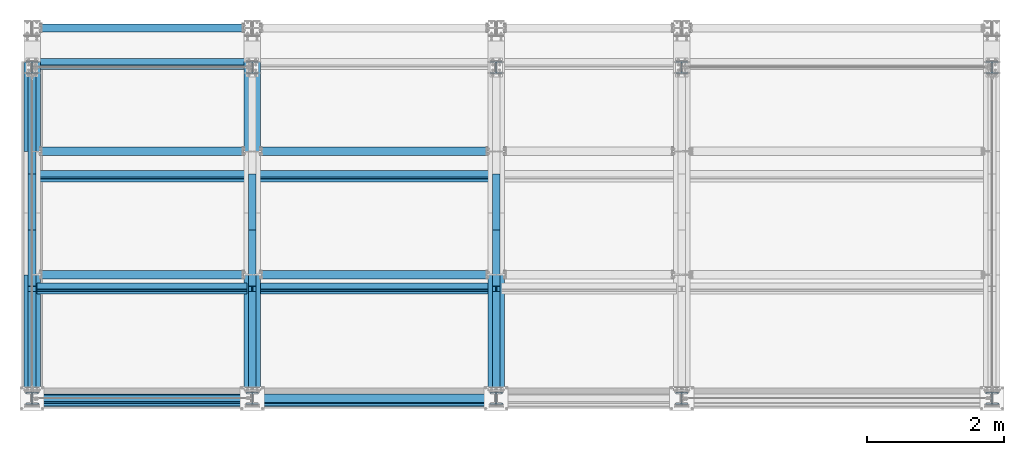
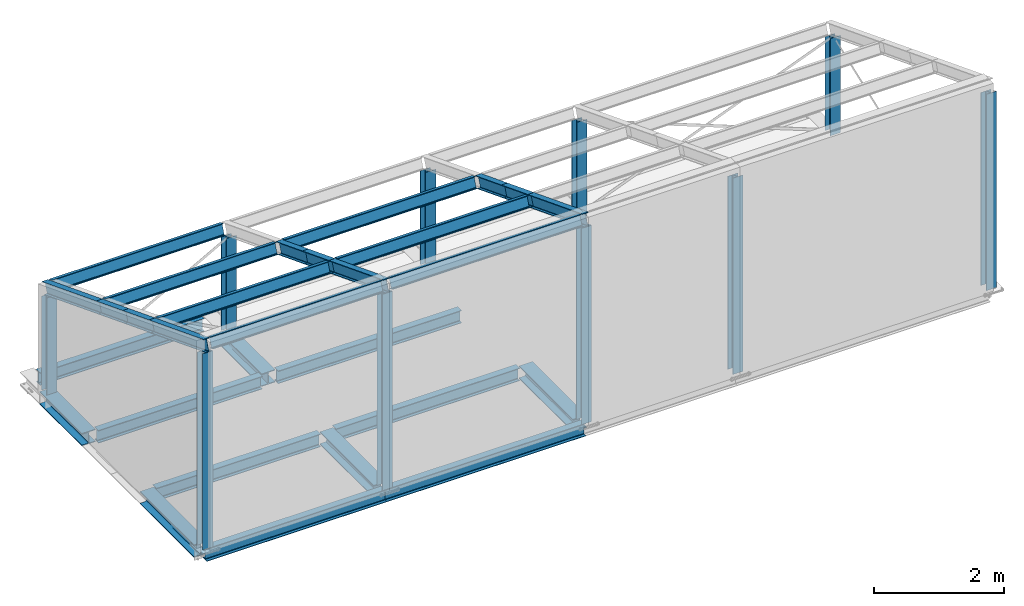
# One storey, part 1 of 66: 29 beams, 10 columns.
"""IFC4 building model written with IfcOpenShell, lengths in metres."""

from ifc_helpers import new_model, si_unit, frame, frame_2d, origin_with_axes, origin_2d_with_axis, place, context, project, spatial, i_section, extrude, clip, halfspace, material, material_profile, profile_set, profile_usage, type_object, element, save


model = new_model("IFC4")

# Units and contexts
model_context = context("Model", 3, precision=1e-05, world=origin_with_axes())
ifc_project = project(units=[si_unit("LENGTHUNIT", "METRE"), si_unit("AREAUNIT", "SQUARE_METRE"), si_unit("VOLUMEUNIT", "CUBIC_METRE"), si_unit("MASSUNIT", "GRAM", prefix="KILO"), si_unit("TIMEUNIT", "SECOND"), si_unit("PLANEANGLEUNIT", "RADIAN"), si_unit("SOLIDANGLEUNIT", "STERADIAN"), si_unit("THERMODYNAMICTEMPERATUREUNIT", "DEGREE_CELSIUS")], contexts=[model_context])

# Site, building, storey
placement_1 = place(None, origin_with_axes())
site = spatial("IfcSite", under=ifc_project, at=placement_1, Name="Italia", CompositionType="ELEMENT")
building = spatial("IfcBuilding", under=site, at=placement_1, Name="Uffici", CompositionType="ELEMENT")
storey_placement = place(None, frame((0.0, 0.0, 3.299999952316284), z_axis=(0.0, 0.0, 1.0), x_axis=(1.0, 0.0, 0.0)))
storey = spatial("IfcBuildingStorey", under=building, at=storey_placement, Name="Storey 1", CompositionType="ELEMENT", Elevation=3.299999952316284)

# Columns
ifc_material = material(Name="Acciaio", Category="Acciaio")
ifc_material_profile = material_profile(ifc_material, i_section(OverallWidth=0.24, OverallDepth=0.23, WebThickness=0.0075, FlangeThickness=0.012, FilletRadius=0.021, at=frame_2d((0.0, 0.0), x_axis=(0.0, -0.999999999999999))), Name="1 HEA240")
ifc_profile_set = profile_set([ifc_material_profile])
ifc_profile_usage_1 = profile_usage(ifc_profile_set, cardinal=2)
column_type_1 = type_object("IfcColumnType", Name="7 HEA180", PredefinedType="COLUMN", material=ifc_profile_usage_1)
placement_2 = place(placement_1, origin_with_axes())
column_1_placement = place(placement_2, frame((13.970001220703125, 4.814499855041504, 2.280000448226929), z_axis=(0.0, 0.0, 1.0), x_axis=(1.0, 0.0, 0.0)))
element("IfcColumn", 1, at=column_1_placement, inside=storey, type_object=column_type_1, Name="10", context=model_context, shape_type="Clipping", body=[
    clip(clip(extrude(i_section(OverallWidth=0.18, OverallDepth=0.171, WebThickness=0.006, FlangeThickness=0.0095, FilletRadius=0.015, at=frame_2d((0.0, 0.0), x_axis=(0.0, -1.0))), frame((0.0, 0.0, 0.0), z_axis=(0.0, 0.0, 1.0), x_axis=(0.0, 1.0, 0.0)), (0.0, 0.0, 1.0), 4.08), halfspace(frame((9.53674e-07, 0.0, 1.04), z_axis=(0.0, 0.0, -1.0), x_axis=(1.0, 0.0, 0.0)), False)), halfspace(frame((9.53674e-07, -4.76837e-07, 2.8411), z_axis=(3.750754e-09, -0.361502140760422, -0.932371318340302), x_axis=(1.0, 1.0375469e-08, 0.0)), True)),
])
ifc_profile_usage_2 = profile_usage(ifc_profile_set, cardinal=2)
column_type_2 = type_object("IfcColumnType", Name="7 HEA180", PredefinedType="COLUMN", material=ifc_profile_usage_2)
column_2_placement = place(placement_2, frame((9.455002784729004, 4.814499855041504, 2.280000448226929), z_axis=(0.0, 0.0, 1.0), x_axis=(1.0, 0.0, 0.0)))
element("IfcColumn", 2, at=column_2_placement, inside=storey, type_object=column_type_2, Name="9", context=model_context, shape_type="Clipping", body=[
    clip(clip(extrude(i_section(OverallWidth=0.18, OverallDepth=0.171, WebThickness=0.006, FlangeThickness=0.0095, FilletRadius=0.015, at=frame_2d((0.0, 0.0), x_axis=(0.0, -1.0))), frame((0.0, 0.0, 0.0), z_axis=(0.0, 0.0, 1.0), x_axis=(0.0, 1.0, 0.0)), (0.0, 0.0, 1.0), 4.08), halfspace(frame((0.0, 0.0, 1.04), z_axis=(0.0, 0.0, -1.0), x_axis=(1.0, 0.0, 0.0)), False)), halfspace(frame((0.0, -4.76837e-07, 2.8411), z_axis=(0.0, -0.361517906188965, -0.93236517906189), x_axis=(1.0, 0.0, 0.0)), True)),
])
ifc_profile_usage_3 = profile_usage(ifc_profile_set, cardinal=2)
column_type_3 = type_object("IfcColumnType", Name="7 HEA180", PredefinedType="COLUMN", material=ifc_profile_usage_3)
column_3_placement = place(placement_2, frame((6.755000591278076, 4.814499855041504, 2.280000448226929), z_axis=(0.0, 0.0, 1.0), x_axis=(1.0, 0.0, 0.0)))
element("IfcColumn", 3, at=column_3_placement, inside=storey, type_object=column_type_3, Name="8", context=model_context, shape_type="Clipping", body=[
    clip(clip(extrude(i_section(OverallWidth=0.18, OverallDepth=0.171, WebThickness=0.006, FlangeThickness=0.0095, FilletRadius=0.015, at=frame_2d((0.0, 0.0), x_axis=(0.0, -1.0))), frame((0.0, 0.0, 0.0), z_axis=(0.0, 0.0, 1.0), x_axis=(0.0, 1.0, 0.0)), (0.0, 0.0, 1.0), 4.08), halfspace(frame((0.0, 0.0, 1.04), z_axis=(0.0, 0.0, -1.0), x_axis=(1.0, 0.0, 0.0)), False)), halfspace(frame((0.0, -4.76837e-07, 2.8411), z_axis=(0.0, -0.361502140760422, -0.932371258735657), x_axis=(1.0, 0.0, 0.0)), True)),
])
ifc_profile_usage_4 = profile_usage(ifc_profile_set, cardinal=2)
column_type_4 = type_object("IfcColumnType", Name="7 HEA180", PredefinedType="COLUMN", material=ifc_profile_usage_4)
column_4_placement = place(placement_2, frame((3.205000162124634, 4.814499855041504, 2.280000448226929), z_axis=(0.0, 0.0, 1.0), x_axis=(1.0, 0.0, 0.0)))
element("IfcColumn", 4, at=column_4_placement, inside=storey, type_object=column_type_4, Name="7", context=model_context, shape_type="Clipping", body=[
    clip(clip(extrude(i_section(OverallWidth=0.18, OverallDepth=0.171, WebThickness=0.006, FlangeThickness=0.0095, FilletRadius=0.015, at=frame_2d((0.0, 0.0), x_axis=(0.0, -1.0))), frame((0.0, 0.0, 0.0), z_axis=(0.0, 0.0, 1.0), x_axis=(0.0, 1.0, 0.0)), (0.0, 0.0, 1.0), 4.08), halfspace(frame((0.0, 0.0, 1.04), z_axis=(0.0, 0.0, -1.0), x_axis=(1.0, 0.0, 0.0)), False)), halfspace(frame((0.0, -4.76837e-07, 2.8411), z_axis=(3.750754e-09, -0.361502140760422, -0.932371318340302), x_axis=(1.0, 1.0375469e-08, 0.0)), True)),
])
ifc_profile_usage_5 = profile_usage(ifc_profile_set, cardinal=2)
column_type_5 = type_object("IfcColumnType", Name="7 HEA180", PredefinedType="COLUMN", material=ifc_profile_usage_5)
column_5_placement = place(placement_2, frame((1.241763e-09, 4.814499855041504, 2.280000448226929), z_axis=(0.0, 0.0, 1.0), x_axis=(1.0, 0.0, 0.0)))
element("IfcColumn", 5, at=column_5_placement, inside=storey, type_object=column_type_5, Name="6", context=model_context, shape_type="Clipping", body=[
    clip(clip(extrude(i_section(OverallWidth=0.18, OverallDepth=0.171, WebThickness=0.006, FlangeThickness=0.0095, FilletRadius=0.015, at=frame_2d((0.0, 0.0), x_axis=(0.0, -1.0))), frame((0.0, 0.0, 0.0), z_axis=(0.0, 0.0, 1.0), x_axis=(0.0, 1.0, 0.0)), (0.0, 0.0, 1.0), 4.08), halfspace(frame((0.0, 0.0, 1.04), z_axis=(0.0, 0.0, -1.0), x_axis=(1.0, 0.0, 0.0)), False)), halfspace(frame((0.0, -4.76837e-07, 2.8411), z_axis=(3.750754e-09, -0.361502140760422, -0.932371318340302), x_axis=(1.0, 1.0375469e-08, 0.0)), True)),
])
ifc_profile_usage_6 = profile_usage(ifc_profile_set, cardinal=5)
column_type_6 = type_object("IfcColumnType", Name="7 HEA180", PredefinedType="COLUMN", material=ifc_profile_usage_6)
column_6_placement = place(placement_2, frame((13.970001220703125, 6.20882e-10, 1.330000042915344), z_axis=(0.0, 0.0, 1.0), x_axis=(1.0, 0.0, 0.0)))
element("IfcColumn", 6, at=column_6_placement, inside=storey, type_object=column_type_6, Name="5", context=model_context, shape_type="Clipping", body=[
    clip(clip(extrude(i_section(OverallWidth=0.18, OverallDepth=0.171, WebThickness=0.006, FlangeThickness=0.0095, FilletRadius=0.015, at=frame_2d((0.0, 0.0), x_axis=(0.0, -0.999999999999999))), frame((0.0, 0.0, 0.0), z_axis=(0.0, 0.0, 1.0), x_axis=(0.0, 1.0, 0.0)), (0.0, 0.0, 1.0), 7.88), halfspace(frame((9.53674e-07, 0.0, 1.99), z_axis=(0.0, 0.0, -1.0), x_axis=(1.0, 0.0, 0.0)), False)), halfspace(frame((9.53674e-07, -1.6652e-06, 5.65795), z_axis=(-3.3756763e-08, -0.361475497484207, -0.932381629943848), x_axis=(1.0, -9.3386028e-08, 0.0)), True)),
])
ifc_profile_usage_7 = profile_usage(ifc_profile_set, cardinal=5)
column_type_7 = type_object("IfcColumnType", Name="7 HEA180", PredefinedType="COLUMN", material=ifc_profile_usage_7)
column_7_placement = place(placement_2, frame((9.455002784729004, 6.20882e-10, 1.330000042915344), z_axis=(0.0, 0.0, 1.0), x_axis=(1.0, 0.0, 0.0)))
element("IfcColumn", 7, at=column_7_placement, inside=storey, type_object=column_type_7, Name="4", context=model_context, shape_type="Clipping", body=[
    clip(clip(extrude(i_section(OverallWidth=0.18, OverallDepth=0.171, WebThickness=0.006, FlangeThickness=0.0095, FilletRadius=0.015, at=frame_2d((0.0, 0.0), x_axis=(0.0, -0.999999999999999))), frame((0.0, 0.0, 0.0), z_axis=(0.0, 0.0, 1.0), x_axis=(0.0, 1.0, 0.0)), (0.0, 0.0, 1.0), 7.88), halfspace(frame((0.0, 0.0, 1.99), z_axis=(0.0, 0.0, -1.0), x_axis=(1.0, 0.0, 0.0)), False)), halfspace(frame((0.0, -1.5522e-06, 5.65795), z_axis=(-3.3756752e-08, -0.361482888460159, -0.932378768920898), x_axis=(1.0, -9.3384095e-08, 0.0)), True)),
])
ifc_profile_usage_8 = profile_usage(ifc_profile_set, cardinal=5)
column_type_8 = type_object("IfcColumnType", Name="7 HEA180", PredefinedType="COLUMN", material=ifc_profile_usage_8)
column_8_placement = place(placement_2, frame((6.755000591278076, 6.20882e-10, 1.330000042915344), z_axis=(0.0, 0.0, 1.0), x_axis=(1.0, 0.0, 0.0)))
element("IfcColumn", 8, at=column_8_placement, inside=storey, type_object=column_type_8, Name="3", context=model_context, shape_type="Clipping", body=[
    clip(clip(extrude(i_section(OverallWidth=0.18, OverallDepth=0.171, WebThickness=0.006, FlangeThickness=0.0095, FilletRadius=0.015, at=frame_2d((0.0, 0.0), x_axis=(0.0, -0.999999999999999))), frame((0.0, 0.0, 0.0), z_axis=(0.0, 0.0, 1.0), x_axis=(0.0, 1.0, 0.0)), (0.0, 0.0, 1.0), 7.88), halfspace(frame((0.0, 0.0, 1.99), z_axis=(0.0, 0.0, -1.0), x_axis=(1.0, 0.0, 0.0)), False)), halfspace(frame((0.0, 8.58059e-07, 5.65795), z_axis=(0.0, -0.361552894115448, -0.932351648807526), x_axis=(1.0, 0.0, 0.0)), True)),
])
ifc_profile_usage_9 = profile_usage(ifc_profile_set, cardinal=5)
column_type_9 = type_object("IfcColumnType", Name="7 HEA180", PredefinedType="COLUMN", material=ifc_profile_usage_9)
column_9_placement = place(placement_2, frame((3.205000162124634, 6.20882e-10, 1.330000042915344), z_axis=(0.0, 0.0, 1.0), x_axis=(1.0, 0.0, 0.0)))
element("IfcColumn", 9, at=column_9_placement, inside=storey, type_object=column_type_9, Name="2", context=model_context, shape_type="Clipping", body=[
    clip(clip(extrude(i_section(OverallWidth=0.18, OverallDepth=0.171, WebThickness=0.006, FlangeThickness=0.0095, FilletRadius=0.015, at=frame_2d((0.0, 0.0), x_axis=(0.0, -0.999999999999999))), frame((0.0, 0.0, 0.0), z_axis=(0.0, 0.0, 1.0), x_axis=(0.0, 1.0, 0.0)), (0.0, 0.0, 1.0), 7.88), halfspace(frame((0.0, 0.0, 1.99), z_axis=(0.0, 0.0, -1.0), x_axis=(1.0, 0.0, 0.0)), False)), halfspace(frame((0.0, 8.58059e-07, 5.65795), z_axis=(0.0, -0.36155292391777, -0.932351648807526), x_axis=(1.0, 0.0, 0.0)), True)),
])
ifc_profile_usage_10 = profile_usage(ifc_profile_set, cardinal=5)
column_type_10 = type_object("IfcColumnType", Name="7 HEA180", PredefinedType="COLUMN", material=ifc_profile_usage_10)
column_10_placement = place(placement_2, frame((1.241763e-09, 6.20882e-10, 1.330000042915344), z_axis=(0.0, 0.0, 1.0), x_axis=(1.0, 0.0, 0.0)))
element("IfcColumn", 10, at=column_10_placement, inside=storey, type_object=column_type_10, Name="1", context=model_context, shape_type="Clipping", body=[
    clip(clip(extrude(i_section(OverallWidth=0.18, OverallDepth=0.171, WebThickness=0.006, FlangeThickness=0.0095, FilletRadius=0.015, at=frame_2d((0.0, 0.0), x_axis=(0.0, -0.999999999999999))), frame((0.0, 0.0, 0.0), z_axis=(0.0, 0.0, 1.0), x_axis=(0.0, 1.0, 0.0)), (0.0, 0.0, 1.0), 7.88), halfspace(frame((0.0, 0.0, 1.99), z_axis=(0.0, 0.0, -1.0), x_axis=(1.0, 0.0, 0.0)), False)), halfspace(frame((0.0, -1.6652e-06, 5.65795), z_axis=(-3.000601e-08, -0.361475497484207, -0.932381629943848), x_axis=(1.0, -8.3009802e-08, 0.0)), True)),
])

# Beams
ifc_profile_usage_11 = profile_usage(ifc_profile_set, cardinal=2)
beam_type_1 = type_object("IfcBeamType", Name="2 HEB240", PredefinedType="BEAM", material=ifc_profile_usage_11)
beam_1_placement = place(placement_2, frame((6.20882e-10, -0.898333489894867, 3.180000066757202), z_axis=(0.0, 0.0, 1.0), x_axis=(1.0, 0.0, 0.0)))
element("IfcBeam", 11, at=beam_1_placement, inside=storey, type_object=beam_type_1, Name="108", context=model_context, shape_type="Clipping", body=[
    clip(extrude(i_section(OverallWidth=0.24, OverallDepth=0.24, WebThickness=0.01, FlangeThickness=0.017, FilletRadius=0.021, at=origin_2d_with_axis()), frame((0.0, 0.0, 0.0), z_axis=(0.0, 1.0, 0.0), x_axis=(-1.0, 0.0, 0.0)), (0.0, 0.0, 1.0), 2.695), halfspace(frame((0.0, 1.02833, 0.0), z_axis=(0.0, -1.0, 0.0), x_axis=(1.0, 0.0, 0.0)), False)),
])
ifc_profile_usage_12 = profile_usage(ifc_profile_set, cardinal=2)
beam_type_2 = type_object("IfcBeamType", Name="2 HEB240", PredefinedType="BEAM", material=ifc_profile_usage_12)
beam_2_placement = place(placement_2, origin_with_axes())
element("IfcBeam", 12, at=beam_2_placement, inside=storey, type_object=beam_type_2, Name="108", context=model_context, shape_type="SweptSolid", body=[
    extrude(i_section(OverallWidth=0.24, OverallDepth=0.24, WebThickness=0.01, FlangeThickness=0.017, FilletRadius=0.021, at=origin_2d_with_axis()), frame((0.0, 3.59333, 3.18), z_axis=(0.0, 1.0, 0.0), x_axis=(-1.0, 0.0, 0.0)), (0.0, 0.0, 1.0), 1.30667),
])
ifc_profile_usage_13 = profile_usage(ifc_profile_set, cardinal=2)
beam_type_3 = type_object("IfcBeamType", Name="5 IPE220", PredefinedType="BEAM", material=ifc_profile_usage_13)
beam_3_placement = place(placement_2, origin_with_axes())
element("IfcBeam", 13, at=beam_3_placement, inside=storey, type_object=beam_type_3, Name="208", context=model_context, shape_type="SweptSolid", body=[
    extrude(i_section(OverallWidth=0.11, OverallDepth=0.22, WebThickness=0.0059, FlangeThickness=0.0092, FilletRadius=0.012, at=origin_2d_with_axis()), frame((0.0, 2.41023, 6.18744), z_axis=(0.0, 0.932361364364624, -0.36152783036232), x_axis=(-1.0, 0.0, 0.0)), (0.0, 0.0, 1.0), 0.875912),
])
ifc_profile_usage_14 = profile_usage(ifc_profile_set, cardinal=2)
beam_type_4 = type_object("IfcBeamType", Name="5 IPE220", PredefinedType="BEAM", material=ifc_profile_usage_14)
beam_4_placement = place(placement_2, origin_with_axes())
element("IfcBeam", 14, at=beam_4_placement, inside=storey, type_object=beam_type_4, Name="209", context=model_context, shape_type="SweptSolid", body=[
    extrude(i_section(OverallWidth=0.11, OverallDepth=0.22, WebThickness=0.0059, FlangeThickness=0.0092, FilletRadius=0.012, at=origin_2d_with_axis()), frame((3.205, 2.41023, 6.18744), z_axis=(0.0, 0.932361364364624, -0.36152783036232), x_axis=(-1.0, 0.0, 0.0)), (0.0, 0.0, 1.0), 0.875912),
])
ifc_profile_usage_15 = profile_usage(ifc_profile_set, cardinal=2)
beam_type_5 = type_object("IfcBeamType", Name="5 IPE220", PredefinedType="BEAM", material=ifc_profile_usage_15)
beam_5_placement = place(placement_2, origin_with_axes())
element("IfcBeam", 15, at=beam_5_placement, inside=storey, type_object=beam_type_5, Name="210", context=model_context, shape_type="SweptSolid", body=[
    extrude(i_section(OverallWidth=0.11, OverallDepth=0.22, WebThickness=0.0059, FlangeThickness=0.0092, FilletRadius=0.012, at=origin_2d_with_axis()), frame((6.755, 2.41023, 6.18744), z_axis=(0.0, 0.932361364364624, -0.36152783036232), x_axis=(-1.0, 0.0, 0.0)), (0.0, 0.0, 1.0), 0.875912),
])
ifc_profile_usage_16 = profile_usage(ifc_profile_set, cardinal=2)
beam_type_6 = type_object("IfcBeamType", Name="6 IPE200", PredefinedType="BEAM", material=ifc_profile_usage_16)
beam_6_placement = place(placement_2, frame((-1.602499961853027, 4.863853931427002, 5.246760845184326), z_axis=(0.0, 0.0, 1.0), x_axis=(1.0, 0.0, 0.0)))
element("IfcBeam", 16, at=beam_6_placement, inside=storey, type_object=beam_type_6, Name="230", context=model_context, shape_type="Clipping", body=[
    clip(clip(extrude(i_section(OverallWidth=0.1, OverallDepth=0.2, WebThickness=0.0056, FlangeThickness=0.0085, FilletRadius=0.012, at=frame_2d((0.0, 0.0), x_axis=(0.932386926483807, -0.361461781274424))), frame((0.0, 0.0, 0.0), z_axis=(1.0, 0.0, 0.0), x_axis=(0.0, 1.0, 0.0)), (0.0, 0.0, 1.0), 6.41), halfspace(frame((1.6775, 0.0, 4.76837e-07), z_axis=(-1.0, 0.0, 0.0), x_axis=(0.0, -1.0, 0.0)), False)), halfspace(frame((4.7325, 0.0, 4.76837e-07), z_axis=(-1.0, 0.0, 0.0), x_axis=(0.0, -1.0, 0.0)), True)),
])
ifc_profile_usage_17 = profile_usage(ifc_profile_set, cardinal=2)
beam_type_7 = type_object("IfcBeamType", Name="6 IPE200", PredefinedType="BEAM", material=ifc_profile_usage_17)
beam_7_placement = place(placement_2, frame((1.429999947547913, 3.230520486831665, 5.880094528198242), z_axis=(0.0, 0.0, 1.0), x_axis=(1.0, 0.0, 0.0)))
element("IfcBeam", 17, at=beam_7_placement, inside=storey, type_object=beam_type_7, Name="204", context=model_context, shape_type="Clipping", body=[
    clip(clip(extrude(i_section(OverallWidth=0.1, OverallDepth=0.2, WebThickness=0.0056, FlangeThickness=0.0085, FilletRadius=0.012, at=frame_2d((0.0, 0.0), x_axis=(0.932386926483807, -0.361461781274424))), frame((0.0, 0.0, 0.0), z_axis=(1.0, 0.0, 0.0), x_axis=(0.0, 1.0, 0.0)), (0.0, 0.0, 1.0), 7.1), halfspace(frame((1.85, 0.0, 0.0), z_axis=(-1.0, 0.0, 0.0), x_axis=(0.0, -1.0, 0.0)), False)), halfspace(frame((5.25, 0.0, 0.0), z_axis=(-1.0, 0.0, 0.0), x_axis=(0.0, -1.0, 0.0)), True)),
])
ifc_profile_usage_18 = profile_usage(ifc_profile_set, cardinal=2)
beam_type_8 = type_object("IfcBeamType", Name="6 IPE200", PredefinedType="BEAM", material=ifc_profile_usage_18)
beam_8_placement = place(placement_2, frame((-1.602499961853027, 3.230520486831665, 5.880094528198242), z_axis=(0.0, 0.0, 1.0), x_axis=(1.0, 0.0, 0.0)))
element("IfcBeam", 18, at=beam_8_placement, inside=storey, type_object=beam_type_8, Name="204", context=model_context, shape_type="Clipping", body=[
    clip(clip(extrude(i_section(OverallWidth=0.1, OverallDepth=0.2, WebThickness=0.0056, FlangeThickness=0.0085, FilletRadius=0.012, at=frame_2d((0.0, 0.0), x_axis=(0.932386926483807, -0.361461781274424))), frame((0.0, 0.0, 0.0), z_axis=(1.0, 0.0, 0.0), x_axis=(0.0, 1.0, 0.0)), (0.0, 0.0, 1.0), 6.41), halfspace(frame((1.6775, 0.0, 0.0), z_axis=(-1.0, 0.0, 0.0), x_axis=(0.0, -1.0, 0.0)), False)), halfspace(frame((4.7325, 0.0, 0.0), z_axis=(-1.0, 0.0, 0.0), x_axis=(0.0, -1.0, 0.0)), True)),
])
ifc_profile_usage_19 = profile_usage(ifc_profile_set, cardinal=2)
beam_type_9 = type_object("IfcBeamType", Name="6 IPE200", PredefinedType="BEAM", material=ifc_profile_usage_19)
beam_9_placement = place(placement_2, frame((1.429999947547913, 1.597187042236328, 6.513427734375), z_axis=(0.0, 0.0, 1.0), x_axis=(1.0, 0.0, 0.0)))
element("IfcBeam", 19, at=beam_9_placement, inside=storey, type_object=beam_type_9, Name="202", context=model_context, shape_type="Clipping", body=[
    clip(clip(extrude(i_section(OverallWidth=0.1, OverallDepth=0.2, WebThickness=0.0056, FlangeThickness=0.0085, FilletRadius=0.012, at=frame_2d((0.0, 0.0), x_axis=(0.932386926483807, -0.361461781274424))), frame((0.0, 0.0, 0.0), z_axis=(1.0, 0.0, 0.0), x_axis=(0.0, 1.0, 0.0)), (0.0, 0.0, 1.0), 7.1), halfspace(frame((1.85, 0.0, 0.0), z_axis=(-1.0, 0.0, 0.0), x_axis=(0.0, -1.0, 0.0)), False)), halfspace(frame((5.25, 0.0, 0.0), z_axis=(-1.0, 0.0, 0.0), x_axis=(0.0, -1.0, 0.0)), True)),
])
ifc_profile_usage_20 = profile_usage(ifc_profile_set, cardinal=2)
beam_type_10 = type_object("IfcBeamType", Name="6 IPE200", PredefinedType="BEAM", material=ifc_profile_usage_20)
beam_10_placement = place(placement_2, frame((-1.602499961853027, 1.597187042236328, 6.513427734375), z_axis=(0.0, 0.0, 1.0), x_axis=(1.0, 0.0, 0.0)))
element("IfcBeam", 20, at=beam_10_placement, inside=storey, type_object=beam_type_10, Name="202", context=model_context, shape_type="Clipping", body=[
    clip(clip(extrude(i_section(OverallWidth=0.1, OverallDepth=0.2, WebThickness=0.0056, FlangeThickness=0.0085, FilletRadius=0.012, at=frame_2d((0.0, 0.0), x_axis=(0.932386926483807, -0.361461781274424))), frame((0.0, 0.0, 0.0), z_axis=(1.0, 0.0, 0.0), x_axis=(0.0, 1.0, 0.0)), (0.0, 0.0, 1.0), 6.41), halfspace(frame((1.6775, 0.0, 0.0), z_axis=(-1.0, 0.0, 0.0), x_axis=(0.0, -1.0, 0.0)), False)), halfspace(frame((4.7325, 0.0, 0.0), z_axis=(-1.0, 0.0, 0.0), x_axis=(0.0, -1.0, 0.0)), True)),
])
ifc_profile_usage_21 = profile_usage(ifc_profile_set, cardinal=2)
beam_type_11 = type_object("IfcBeamType", Name="6 IPE200", PredefinedType="BEAM", material=ifc_profile_usage_21)
beam_11_placement = place(placement_2, frame((1.429999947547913, -0.03614616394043, 7.1467604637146), z_axis=(0.0, 0.0, 1.0), x_axis=(1.0, 0.0, 0.0)))
element("IfcBeam", 21, at=beam_11_placement, inside=storey, type_object=beam_type_11, Name="201", context=model_context, shape_type="Clipping", body=[
    clip(clip(extrude(i_section(OverallWidth=0.1, OverallDepth=0.2, WebThickness=0.0056, FlangeThickness=0.0085, FilletRadius=0.012, at=frame_2d((0.0, 0.0), x_axis=(0.932386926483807, -0.361461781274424))), frame((0.0, 0.0, 0.0), z_axis=(1.0, 0.0, 0.0), x_axis=(0.0, 1.0, 0.0)), (0.0, 0.0, 1.0), 7.1), halfspace(frame((1.85, 0.0, 4.76837e-07), z_axis=(-1.0, 0.0, 0.0), x_axis=(0.0, -1.0, 0.0)), False)), halfspace(frame((5.25, 0.0, 4.76837e-07), z_axis=(-1.0, 0.0, 0.0), x_axis=(0.0, -1.0, 0.0)), True)),
])
ifc_profile_usage_22 = profile_usage(ifc_profile_set, cardinal=2)
beam_type_12 = type_object("IfcBeamType", Name="6 IPE200", PredefinedType="BEAM", material=ifc_profile_usage_22)
beam_12_placement = place(placement_2, frame((-1.602499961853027, -0.03614616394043, 7.1467604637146), z_axis=(0.0, 0.0, 1.0), x_axis=(1.0, 0.0, 0.0)))
element("IfcBeam", 22, at=beam_12_placement, inside=storey, type_object=beam_type_12, Name="201", context=model_context, shape_type="Clipping", body=[
    clip(clip(extrude(i_section(OverallWidth=0.1, OverallDepth=0.2, WebThickness=0.0056, FlangeThickness=0.0085, FilletRadius=0.012, at=frame_2d((0.0, 0.0), x_axis=(0.932386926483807, -0.361461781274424))), frame((0.0, 0.0, 0.0), z_axis=(1.0, 0.0, 0.0), x_axis=(0.0, 1.0, 0.0)), (0.0, 0.0, 1.0), 6.41), halfspace(frame((1.6775, 0.0, 4.76837e-07), z_axis=(-1.0, 0.0, 0.0), x_axis=(0.0, -1.0, 0.0)), False)), halfspace(frame((4.7325, 0.0, 4.76837e-07), z_axis=(-1.0, 0.0, 0.0), x_axis=(0.0, -1.0, 0.0)), True)),
])
ifc_profile_usage_23 = profile_usage(ifc_profile_set, cardinal=2)
beam_type_13 = type_object("IfcBeamType", Name="2 HEB240", PredefinedType="BEAM", material=ifc_profile_usage_23)
beam_13_placement = place(placement_2, frame((6.755000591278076, -0.898333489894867, 3.180000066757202), z_axis=(0.0, 0.0, 1.0), x_axis=(1.0, 0.0, 0.0)))
element("IfcBeam", 23, at=beam_13_placement, inside=storey, type_object=beam_type_13, Name="110", context=model_context, shape_type="Clipping", body=[
    clip(extrude(i_section(OverallWidth=0.24, OverallDepth=0.24, WebThickness=0.01, FlangeThickness=0.017, FilletRadius=0.021, at=origin_2d_with_axis()), frame((0.0, 0.0, 0.0), z_axis=(0.0, 1.0, 0.0), x_axis=(-1.0, 0.0, 0.0)), (0.0, 0.0, 1.0), 2.695), halfspace(frame((0.0, 1.02833, 0.0), z_axis=(0.0, -1.0, 0.0), x_axis=(1.0, 0.0, 0.0)), False)),
])
ifc_profile_usage_24 = profile_usage(ifc_profile_set, cardinal=2)
beam_type_14 = type_object("IfcBeamType", Name="2 HEB240", PredefinedType="BEAM", material=ifc_profile_usage_24)
beam_14_placement = place(placement_2, frame((3.204999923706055, -0.898333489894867, 3.180000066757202), z_axis=(0.0, 0.0, 1.0), x_axis=(1.0, 0.0, 0.0)))
element("IfcBeam", 24, at=beam_14_placement, inside=storey, type_object=beam_type_14, Name="109", context=model_context, shape_type="Clipping", body=[
    clip(extrude(i_section(OverallWidth=0.24, OverallDepth=0.24, WebThickness=0.01, FlangeThickness=0.017, FilletRadius=0.021, at=origin_2d_with_axis()), frame((0.0, 0.0, 0.0), z_axis=(0.0, 1.0, 0.0), x_axis=(-1.0, 0.0, 0.0)), (0.0, 0.0, 1.0), 2.695), halfspace(frame((0.0, 1.02833, 0.0), z_axis=(0.0, -1.0, 0.0), x_axis=(1.0, 0.0, 0.0)), False)),
])
ifc_profile_usage_25 = profile_usage(ifc_profile_set, cardinal=2)
beam_type_15 = type_object("IfcBeamType", Name="2 HEB240", PredefinedType="BEAM", material=ifc_profile_usage_25)
beam_15_placement = place(placement_2, origin_with_axes())
element("IfcBeam", 25, at=beam_15_placement, inside=storey, type_object=beam_type_15, Name="109", context=model_context, shape_type="SweptSolid", body=[
    extrude(i_section(OverallWidth=0.24, OverallDepth=0.24, WebThickness=0.01, FlangeThickness=0.017, FilletRadius=0.021, at=origin_2d_with_axis()), frame((3.205, 3.59333, 3.18), z_axis=(0.0, 1.0, 0.0), x_axis=(-1.0, 0.0, 0.0)), (0.0, 0.0, 1.0), 1.30667),
])
ifc_profile_usage_26 = profile_usage(ifc_profile_set, cardinal=2)
beam_type_16 = type_object("IfcBeamType", Name="5 IPE220", PredefinedType="BEAM", material=ifc_profile_usage_26)
beam_16_placement = place(placement_2, origin_with_axes())
element("IfcBeam", 26, at=beam_16_placement, inside=storey, type_object=beam_type_16, Name="210", context=model_context, shape_type="SweptSolid", body=[
    extrude(i_section(OverallWidth=0.11, OverallDepth=0.22, WebThickness=0.0059, FlangeThickness=0.0092, FilletRadius=0.012, at=origin_2d_with_axis()), frame((6.755, 1.59357, 6.50411), z_axis=(0.0, 0.932361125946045, -0.361528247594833), x_axis=(-1.0, 0.0, 0.0)), (0.0, 0.0, 1.0), 0.875912),
])
ifc_profile_usage_27 = profile_usage(ifc_profile_set, cardinal=2)
beam_type_17 = type_object("IfcBeamType", Name="3 IPE240", PredefinedType="BEAM", material=ifc_profile_usage_27)
beam_17_placement = place(placement_2, origin_with_axes())
element("IfcBeam", 27, at=beam_17_placement, inside=storey, type_object=beam_type_17, Name="101", context=model_context, shape_type="SweptSolid", body=[
    extrude(i_section(OverallWidth=0.12, OverallDepth=0.24, WebThickness=0.0062, FlangeThickness=0.0098, FilletRadius=0.015, at=origin_2d_with_axis()), frame((6.755, 0.0, 3.18), z_axis=(-1.0, 0.0, 0.0), x_axis=(0.0, -1.0, 0.0)), (0.0, 0.0, 1.0), 3.55),
])
ifc_profile_usage_28 = profile_usage(ifc_profile_set, cardinal=2)
beam_type_18 = type_object("IfcBeamType", Name="3 IPE240", PredefinedType="BEAM", material=ifc_profile_usage_28)
beam_18_placement = place(placement_2, origin_with_axes())
element("IfcBeam", 28, at=beam_18_placement, inside=storey, type_object=beam_type_18, Name="101", context=model_context, shape_type="SweptSolid", body=[
    extrude(i_section(OverallWidth=0.12, OverallDepth=0.24, WebThickness=0.0062, FlangeThickness=0.0098, FilletRadius=0.015, at=origin_2d_with_axis()), frame((3.205, 0.0, 3.18), z_axis=(-1.0, 0.0, 0.0), x_axis=(0.0, -1.0, 0.0)), (0.0, 0.0, 1.0), 3.205),
])
ifc_profile_usage_29 = profile_usage(ifc_profile_set, cardinal=2)
beam_type_19 = type_object("IfcBeamType", Name="5 IPE220", PredefinedType="BEAM", material=ifc_profile_usage_29)
beam_19_placement = place(placement_2, origin_with_axes())
element("IfcBeam", 29, at=beam_19_placement, inside=storey, type_object=beam_type_19, Name="209", context=model_context, shape_type="SweptSolid", body=[
    extrude(i_section(OverallWidth=0.11, OverallDepth=0.22, WebThickness=0.0059, FlangeThickness=0.0092, FilletRadius=0.012, at=origin_2d_with_axis()), frame((3.205, 1.59357, 6.50411), z_axis=(0.0, 0.932361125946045, -0.361528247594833), x_axis=(-1.0, 0.0, 0.0)), (0.0, 0.0, 1.0), 0.875912),
])
ifc_profile_usage_30 = profile_usage(ifc_profile_set, cardinal=2)
beam_type_20 = type_object("IfcBeamType", Name="5 IPE220", PredefinedType="BEAM", material=ifc_profile_usage_30)
beam_20_placement = place(placement_2, origin_with_axes())
element("IfcBeam", 30, at=beam_20_placement, inside=storey, type_object=beam_type_20, Name="208", context=model_context, shape_type="SweptSolid", body=[
    extrude(i_section(OverallWidth=0.11, OverallDepth=0.22, WebThickness=0.0059, FlangeThickness=0.0092, FilletRadius=0.012, at=origin_2d_with_axis()), frame((0.0, 3.2269, 5.87077), z_axis=(0.0, 0.932361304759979, -0.36152783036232), x_axis=(-1.0, 0.0, 0.0)), (0.0, 0.0, 1.0), 1.80184),
])
ifc_profile_usage_31 = profile_usage(ifc_profile_set, cardinal=2)
beam_type_21 = type_object("IfcBeamType", Name="5 IPE220", PredefinedType="BEAM", material=ifc_profile_usage_31)
beam_21_placement = place(placement_2, origin_with_axes())
element("IfcBeam", 31, at=beam_21_placement, inside=storey, type_object=beam_type_21, Name="208", context=model_context, shape_type="SweptSolid", body=[
    extrude(i_section(OverallWidth=0.11, OverallDepth=0.22, WebThickness=0.0059, FlangeThickness=0.0092, FilletRadius=0.012, at=origin_2d_with_axis()), frame((0.0, 1.59357, 6.50411), z_axis=(0.0, 0.932361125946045, -0.361528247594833), x_axis=(-1.0, 0.0, 0.0)), (0.0, 0.0, 1.0), 0.875912),
])
ifc_profile_usage_32 = profile_usage(ifc_profile_set, cardinal=2)
beam_type_22 = type_object("IfcBeamType", Name="3 IPE240", PredefinedType="BEAM", material=ifc_profile_usage_32)
beam_22_placement = place(placement_2, frame((8.529999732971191, 1.796666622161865, 3.179999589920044), z_axis=(0.0, 0.0, 1.0), x_axis=(1.0, 0.0, 0.0)))
element("IfcBeam", 32, at=beam_22_placement, inside=storey, type_object=beam_type_22, Name="103", context=model_context, shape_type="Clipping", body=[
    clip(clip(extrude(i_section(OverallWidth=0.12, OverallDepth=0.24, WebThickness=0.0062, FlangeThickness=0.0098, FilletRadius=0.015, at=origin_2d_with_axis()), frame((0.0, 0.0, 0.0), z_axis=(-1.0, 0.0, 0.0), x_axis=(0.0, -1.0, 0.0)), (0.0, 0.0, 1.0), 7.1), halfspace(frame((-1.915, 0.0, 0.0), z_axis=(1.0, 0.0, 0.0), x_axis=(0.0, 1.0, 0.0)), False)), halfspace(frame((-5.185, 0.0, 0.0), z_axis=(1.0, 0.0, 0.0), x_axis=(0.0, 1.0, 0.0)), True)),
])
ifc_profile_usage_33 = profile_usage(ifc_profile_set, cardinal=2)
beam_type_23 = type_object("IfcBeamType", Name="3 IPE240", PredefinedType="BEAM", material=ifc_profile_usage_33)
beam_23_placement = place(placement_2, frame((4.807499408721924, 1.796666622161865, 3.179999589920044), z_axis=(0.0, 0.0, 1.0), x_axis=(1.0, 0.0, 0.0)))
element("IfcBeam", 33, at=beam_23_placement, inside=storey, type_object=beam_type_23, Name="103", context=model_context, shape_type="Clipping", body=[
    clip(clip(extrude(i_section(OverallWidth=0.12, OverallDepth=0.24, WebThickness=0.0062, FlangeThickness=0.0098, FilletRadius=0.015, at=origin_2d_with_axis()), frame((0.0, 0.0, 0.0), z_axis=(-1.0, 0.0, 0.0), x_axis=(0.0, -1.0, 0.0)), (0.0, 0.0, 1.0), 6.41), halfspace(frame((-1.7425, 0.0, 0.0), z_axis=(1.0, 0.0, 0.0), x_axis=(0.0, 1.0, 0.0)), False)), halfspace(frame((-4.6675, 0.0, 0.0), z_axis=(1.0, 0.0, 0.0), x_axis=(0.0, 1.0, 0.0)), True)),
])
ifc_profile_usage_34 = profile_usage(ifc_profile_set, cardinal=2)
beam_type_24 = type_object("IfcBeamType", Name="5 IPE220", PredefinedType="BEAM", material=ifc_profile_usage_34)
beam_24_placement = place(placement_2, origin_with_axes())
element("IfcBeam", 34, at=beam_24_placement, inside=storey, type_object=beam_type_24, Name="210", context=model_context, shape_type="SweptSolid", body=[
    extrude(i_section(OverallWidth=0.11, OverallDepth=0.22, WebThickness=0.0059, FlangeThickness=0.0092, FilletRadius=0.012, at=origin_2d_with_axis()), frame((6.755, -0.0863861, 7.15552), z_axis=(0.0, 0.932361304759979, -0.36152783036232), x_axis=(-1.0, 0.0, 0.0)), (0.0, 0.0, 1.0), 1.80182),
])
ifc_profile_usage_35 = profile_usage(ifc_profile_set, cardinal=2)
beam_type_25 = type_object("IfcBeamType", Name="5 IPE220", PredefinedType="BEAM", material=ifc_profile_usage_35)
beam_25_placement = place(placement_2, origin_with_axes())
element("IfcBeam", 35, at=beam_25_placement, inside=storey, type_object=beam_type_25, Name="209", context=model_context, shape_type="SweptSolid", body=[
    extrude(i_section(OverallWidth=0.11, OverallDepth=0.22, WebThickness=0.0059, FlangeThickness=0.0092, FilletRadius=0.012, at=origin_2d_with_axis()), frame((3.205, -0.0863861, 7.15552), z_axis=(0.0, 0.932361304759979, -0.36152783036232), x_axis=(-1.0, 0.0, 0.0)), (0.0, 0.0, 1.0), 1.80182),
])
ifc_profile_usage_36 = profile_usage(ifc_profile_set, cardinal=2)
beam_type_26 = type_object("IfcBeamType", Name="5 IPE220", PredefinedType="BEAM", material=ifc_profile_usage_36)
beam_26_placement = place(placement_2, origin_with_axes())
element("IfcBeam", 36, at=beam_26_placement, inside=storey, type_object=beam_type_26, Name="208", context=model_context, shape_type="SweptSolid", body=[
    extrude(i_section(OverallWidth=0.11, OverallDepth=0.22, WebThickness=0.0059, FlangeThickness=0.0092, FilletRadius=0.012, at=origin_2d_with_axis()), frame((0.0, -0.0863861, 7.15552), z_axis=(0.0, 0.932361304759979, -0.36152783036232), x_axis=(-1.0, 0.0, 0.0)), (0.0, 0.0, 1.0), 1.80182),
])
ifc_profile_usage_37 = profile_usage(ifc_profile_set, cardinal=2)
beam_type_27 = type_object("IfcBeamType", Name="3 IPE240", PredefinedType="BEAM", material=ifc_profile_usage_37)
beam_27_placement = place(placement_2, frame((8.529999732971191, 3.593333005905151, 3.179999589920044), z_axis=(0.0, 0.0, 1.0), x_axis=(1.0, 0.0, 0.0)))
element("IfcBeam", 37, at=beam_27_placement, inside=storey, type_object=beam_type_27, Name="105", context=model_context, shape_type="Clipping", body=[
    clip(clip(extrude(i_section(OverallWidth=0.12, OverallDepth=0.24, WebThickness=0.0062, FlangeThickness=0.0098, FilletRadius=0.015, at=origin_2d_with_axis()), frame((0.0, 0.0, 0.0), z_axis=(-1.0, 0.0, 0.0), x_axis=(0.0, -1.0, 0.0)), (0.0, 0.0, 1.0), 7.1), halfspace(frame((-1.915, 0.0, 0.0), z_axis=(1.0, 0.0, 0.0), x_axis=(0.0, 1.0, 0.0)), False)), halfspace(frame((-5.185, 0.0, 0.0), z_axis=(1.0, 0.0, 0.0), x_axis=(0.0, 1.0, 0.0)), True)),
])
ifc_profile_usage_38 = profile_usage(ifc_profile_set, cardinal=2)
beam_type_28 = type_object("IfcBeamType", Name="3 IPE240", PredefinedType="BEAM", material=ifc_profile_usage_38)
beam_28_placement = place(placement_2, frame((4.807499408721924, 3.593333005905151, 3.179999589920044), z_axis=(0.0, 0.0, 1.0), x_axis=(1.0, 0.0, 0.0)))
element("IfcBeam", 38, at=beam_28_placement, inside=storey, type_object=beam_type_28, Name="105", context=model_context, shape_type="Clipping", body=[
    clip(clip(extrude(i_section(OverallWidth=0.12, OverallDepth=0.24, WebThickness=0.0062, FlangeThickness=0.0098, FilletRadius=0.015, at=origin_2d_with_axis()), frame((0.0, 0.0, 0.0), z_axis=(-1.0, 0.0, 0.0), x_axis=(0.0, -1.0, 0.0)), (0.0, 0.0, 1.0), 6.41), halfspace(frame((-1.7425, 0.0, 0.0), z_axis=(1.0, 0.0, 0.0), x_axis=(0.0, 1.0, 0.0)), False)), halfspace(frame((-4.6675, 0.0, 0.0), z_axis=(1.0, 0.0, 0.0), x_axis=(0.0, 1.0, 0.0)), True)),
])
ifc_profile_usage_39 = profile_usage(ifc_profile_set, cardinal=2)
beam_type_29 = type_object("IfcBeamType", Name="3 IPE240", PredefinedType="BEAM", material=ifc_profile_usage_39)
beam_29_placement = place(placement_2, frame((4.807499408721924, 5.390000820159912, 3.179999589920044), z_axis=(0.0, 0.0, 1.0), x_axis=(1.0, 0.0, 0.0)))
element("IfcBeam", 39, at=beam_29_placement, inside=storey, type_object=beam_type_29, Name="107", context=model_context, shape_type="Clipping", body=[
    clip(clip(extrude(i_section(OverallWidth=0.12, OverallDepth=0.24, WebThickness=0.0062, FlangeThickness=0.0098, FilletRadius=0.015, at=origin_2d_with_axis()), frame((0.0, 0.0, 0.0), z_axis=(-1.0, 0.0, 0.0), x_axis=(0.0, -1.0, 0.0)), (0.0, 0.0, 1.0), 6.41), halfspace(frame((-1.7425, 0.0, 0.0), z_axis=(1.0, 0.0, 0.0), x_axis=(0.0, 1.0, 0.0)), False)), halfspace(frame((-4.6675, 0.0, 0.0), z_axis=(1.0, 0.0, 0.0), x_axis=(0.0, 1.0, 0.0)), True)),
])

save(model, "model.ifc")
